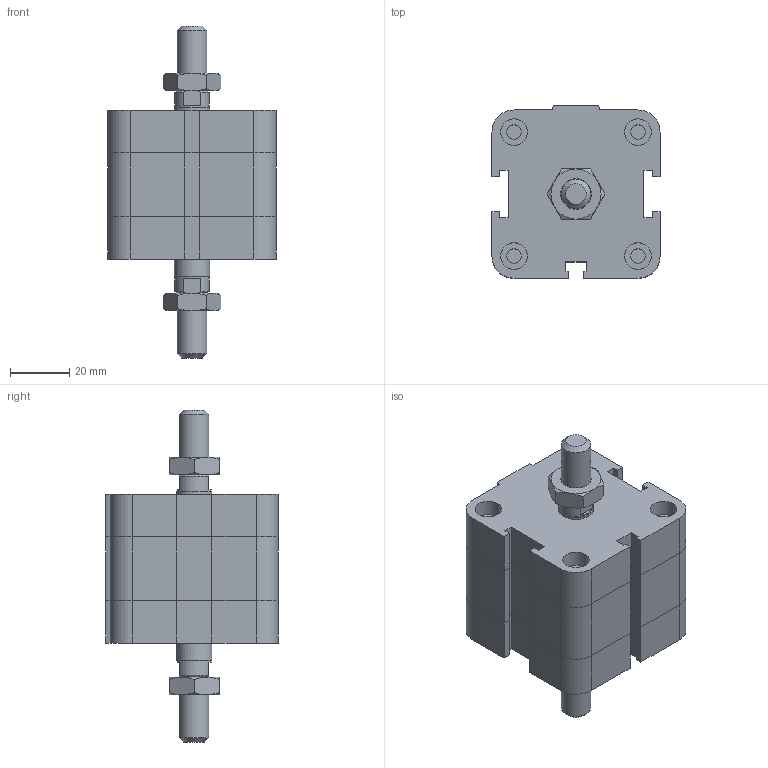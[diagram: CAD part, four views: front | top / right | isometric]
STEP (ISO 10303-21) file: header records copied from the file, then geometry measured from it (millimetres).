
FILE_DESCRIPTION((''),'2;1');
FILE_NAME('I:\Area Tecnica\Disegni\VARIE-3D\Componenti\EUROPE\15##_###_####_04_#\1581_40_0005_04_1.iam.stp','2009-04-20T14:51:23',(''),(''),'Autodesk Inventor 2009','Autodesk Inventor 2009','');
FILE_SCHEMA(('AUTOMOTIVE_DESIGN { 1 0 10303 214 1 1 1 1 }'));
Length unit declared in the file: millimetre
Products named in the file (4): 1581_40_0005_04_1; 1581_40_0005_03_1_C; 1561_40_0005_04_1_S; DBFM10
Assembly tree (4 placements, depth 2):
  1581_40_0005_04_1
    1581_40_0005_03_1_C
    1561_40_0005_04_1_S
    DBFM10  x2
Bounding box: 57 x 58.5 x 112.5 mm (x, y, z)
Volume: 155071.3 mm3; surface area: 30379.3 mm2
Topology: 4 solids, 4 shells, 222 faces, 483 edges, 289 vertices
Faces by surface type: plane 129, cone 35, bspline 33, cylinder 25
Full cylindrical faces by diameter (mm): 4.917 x4, 8.8 x1, 9 x4, 10 x1, 11.7 x2, 12 x1
Entity records: 5450 total; most frequent: CARTESIAN_POINT 1222, DIRECTION 802, ORIENTED_EDGE 772, EDGE_CURVE 386, AXIS2_PLACEMENT_3D 272, EDGE_LOOP 258, VECTOR 258, LINE 258
